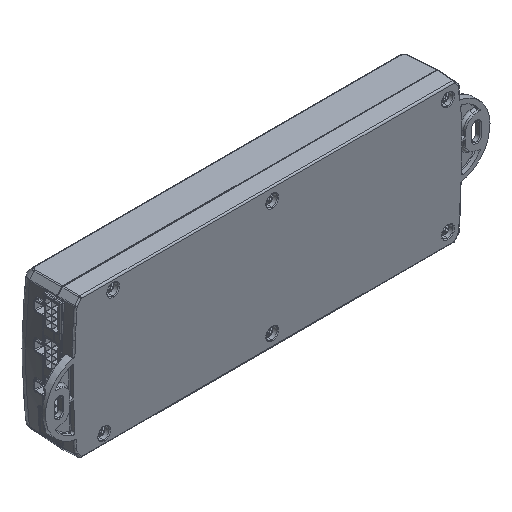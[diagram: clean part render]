
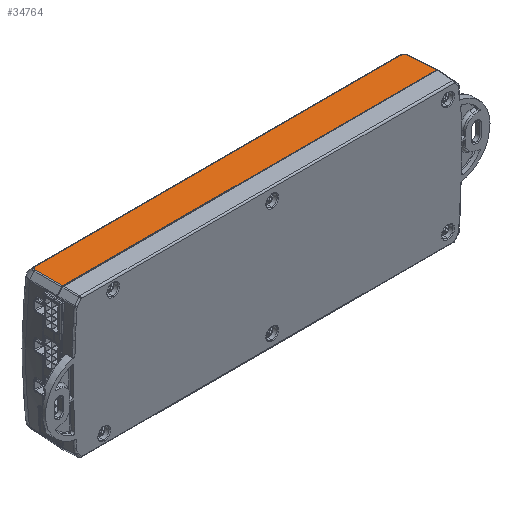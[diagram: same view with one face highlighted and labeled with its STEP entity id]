
A CAD part, isometric view. The second image highlights one B-rep face of the part: STEP entity #34764.
In plain terms, the highlighted planar face has unit normal (0, 0.035, 0.999).
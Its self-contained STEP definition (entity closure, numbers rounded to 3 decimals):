
#474 = B_SPLINE_CURVE_WITH_KNOTS ( 'NONE', 3,
 ( #19145, #22659, #1829, #26220, #5304, #29711, #8830, #33203, #12333, #36712, #15791, #40216, #19289, #43724, #22814, #1978 ),
 .UNSPECIFIED., .F., .F.,
 ( 4, 2, 2, 2, 2, 2, 2, 4 ),
 ( 0., 0., 0.001, 0.002, 0.002, 0.002, 0.003, 0.003 ),
 .UNSPECIFIED. ) ;
#646 = CARTESIAN_POINT ( 'NONE',  ( -121.877, 21.117, 46.263 ) ) ;
#804 = CARTESIAN_POINT ( 'NONE',  ( -122.287, 21.053, 46.265 ) ) ;
#1101 = VERTEX_POINT ( 'NONE', #5629 ) ;
#1829 = CARTESIAN_POINT ( 'NONE',  ( 123.884, 19.292, 46.326 ) ) ;
#1978 = CARTESIAN_POINT ( 'NONE',  ( 121.743, 21.115, 46.263 ) ) ;
#1997 = CARTESIAN_POINT ( 'NONE',  ( 124.24, 8.585, 46.7 ) ) ;
#2514 = CARTESIAN_POINT ( 'NONE',  ( -123.903, 19.022, 46.336 ) ) ;
#2657 = CARTESIAN_POINT ( 'NONE',  ( -124.353, 5.109, 46.822 ) ) ;
#2662 = CARTESIAN_POINT ( 'NONE',  ( -124.516, 0.15, 46.997 ) ) ;
#3130 = ORIENTED_EDGE ( 'NONE', *, *, #32768, .T. ) ;
#4280 = CARTESIAN_POINT ( 'NONE',  ( -122.811, 20.858, 46.272 ) ) ;
#5304 = CARTESIAN_POINT ( 'NONE',  ( 123.78, 19.696, 46.312 ) ) ;
#5324 = CARTESIAN_POINT ( 'NONE',  ( 124.516, 0.15, 46.997 ) ) ;
#5473 = CARTESIAN_POINT ( 'NONE',  ( 124.128, 12.062, 46.579 ) ) ;
#5629 = CARTESIAN_POINT ( 'NONE',  ( -121.736, 21.115, 46.263 ) ) ;
#6157 = CARTESIAN_POINT ( 'NONE',  ( -124.444, 2.297, 46.92 ) ) ;
#6872 = B_SPLINE_CURVE_WITH_KNOTS ( 'NONE', 3,
 ( #5324, #29728, #40236, #19312, #43741, #22836, #1997, #26394, #5473, #29872, #8996, #33376, #12518 ),
 .UNSPECIFIED., .F., .F.,
 ( 4, 3, 3, 3, 4 ),
 ( 0., 0.003, 0.009, 0.014, 0.019 ),
 .UNSPECIFIED. ) ;
#7102 = EDGE_LOOP ( 'NONE', ( #14395, #7980, #11518, #42812, #39380, #3130 ) ) ;
#7467 = EDGE_CURVE ( 'NONE', #42406, #34542, #31224, .T. ) ;
#7656 = B_SPLINE_CURVE_WITH_KNOTS ( 'NONE', 3,
 ( #38891, #646, #21615, #804, #25168, #4280, #28671, #7793, #32175, #11298, #35677, #14772, #39181, #18252, #42678, #21766 ),
 .UNSPECIFIED., .F., .F.,
 ( 4, 2, 2, 2, 2, 2, 2, 4 ),
 ( 0., 0., 0.001, 0.002, 0.002, 0.002, 0.003, 0.003 ),
 .UNSPECIFIED. ) ;
#7793 = CARTESIAN_POINT ( 'NONE',  ( -123.348, 20.416, 46.287 ) ) ;
#7980 = ORIENTED_EDGE ( 'NONE', *, *, #40233, .T. ) ;
#8276 = DIRECTION ( 'NONE',  ( 0., -0.999, 0.035 ) ) ;
#8830 = CARTESIAN_POINT ( 'NONE',  ( 123.452, 20.314, 46.291 ) ) ;
#8996 = CARTESIAN_POINT ( 'NONE',  ( 124.016, 15.538, 46.457 ) ) ;
#9299 = CARTESIAN_POINT ( 'NONE',  ( -123.903, 19.022, 46.336 ) ) ;
#9453 = LINE ( 'NONE', #19568, #10571 ) ;
#9497 = CARTESIAN_POINT ( 'NONE',  ( -123.903, 19.017, 46.336 ) ) ;
#9648 = CARTESIAN_POINT ( 'NONE',  ( -124.516, 0.15, 46.997 ) ) ;
#10571 = VECTOR ( 'NONE', #44015, 1000. ) ;
#10730 = EDGE_CURVE ( 'NONE', #24288, #41117, #474, .T. ) ;
#11298 = CARTESIAN_POINT ( 'NONE',  ( -123.597, 20.079, 46.299 ) ) ;
#11518 = ORIENTED_EDGE ( 'NONE', *, *, #10730, .T. ) ;
#12333 = CARTESIAN_POINT ( 'NONE',  ( 123.043, 20.692, 46.277 ) ) ;
#12518 = CARTESIAN_POINT ( 'NONE',  ( 123.903, 19.015, 46.336 ) ) ;
#13015 = B_SPLINE_CURVE_WITH_KNOTS ( 'NONE', 3,
 ( #2514, #40759, #9497, #33899, #13030, #37407, #16491, #40901, #19991, #44406, #23500, #2657, #27050, #6157, #30537, #9648 ),
 .UNSPECIFIED., .F., .F.,
 ( 4, 3, 3, 3, 3, 4 ),
 ( 0., 0., 0.005, 0.01, 0.016, 0.019 ),
 .UNSPECIFIED. ) ;
#13030 = CARTESIAN_POINT ( 'NONE',  ( -123.959, 17.276, 46.397 ) ) ;
#14395 = ORIENTED_EDGE ( 'NONE', *, *, #7467, .F. ) ;
#14772 = CARTESIAN_POINT ( 'NONE',  ( -123.777, 19.703, 46.312 ) ) ;
#14944 = FACE_OUTER_BOUND ( 'NONE', #7102, .T. ) ;
#15791 = CARTESIAN_POINT ( 'NONE',  ( 122.687, 20.906, 46.27 ) ) ;
#16491 = CARTESIAN_POINT ( 'NONE',  ( -124.072, 13.8, 46.518 ) ) ;
#17321 = CARTESIAN_POINT ( 'NONE',  ( 130.1, 0.15, 46.995 ) ) ;
#18252 = CARTESIAN_POINT ( 'NONE',  ( -123.882, 19.3, 46.326 ) ) ;
#18528 = VERTEX_POINT ( 'NONE', #9299 ) ;
#19145 = CARTESIAN_POINT ( 'NONE',  ( 123.903, 19.015, 46.336 ) ) ;
#19289 = CARTESIAN_POINT ( 'NONE',  ( 122.294, 21.05, 46.265 ) ) ;
#19312 = CARTESIAN_POINT ( 'NONE',  ( 124.409, 3.37, 46.882 ) ) ;
#19568 = CARTESIAN_POINT ( 'NONE',  ( -121.736, 21.115, 46.263 ) ) ;
#19705 = CARTESIAN_POINT ( 'NONE',  ( 121.743, 21.115, 46.263 ) ) ;
#19991 = CARTESIAN_POINT ( 'NONE',  ( -124.184, 10.323, 46.639 ) ) ;
#20843 = DIRECTION ( 'NONE',  ( -1., 0., 0. ) ) ;
#21615 = CARTESIAN_POINT ( 'NONE',  ( -122.015, 21.104, 46.263 ) ) ;
#21631 = EDGE_CURVE ( 'NONE', #1101, #18528, #7656, .T. ) ;
#21766 = CARTESIAN_POINT ( 'NONE',  ( -123.903, 19.022, 46.336 ) ) ;
#22659 = CARTESIAN_POINT ( 'NONE',  ( 123.9, 19.155, 46.331 ) ) ;
#22746 = CARTESIAN_POINT ( 'NONE',  ( 124.516, 0.15, 46.997 ) ) ;
#22814 = CARTESIAN_POINT ( 'NONE',  ( 121.884, 21.117, 46.263 ) ) ;
#22836 = CARTESIAN_POINT ( 'NONE',  ( 124.297, 6.847, 46.761 ) ) ;
#23500 = CARTESIAN_POINT ( 'NONE',  ( -124.297, 6.847, 46.761 ) ) ;
#24288 = VERTEX_POINT ( 'NONE', #42972 ) ;
#25168 = CARTESIAN_POINT ( 'NONE',  ( -122.422, 21.013, 46.266 ) ) ;
#25660 = PLANE ( 'NONE',  #31639 ) ;
#26220 = CARTESIAN_POINT ( 'NONE',  ( 123.824, 19.562, 46.317 ) ) ;
#26394 = CARTESIAN_POINT ( 'NONE',  ( 124.184, 10.323, 46.639 ) ) ;
#27050 = CARTESIAN_POINT ( 'NONE',  ( -124.409, 3.37, 46.882 ) ) ;
#28671 = CARTESIAN_POINT ( 'NONE',  ( -123.049, 20.704, 46.277 ) ) ;
#29152 = DIRECTION ( 'NONE',  ( 0., 0.035, 0.999 ) ) ;
#29711 = CARTESIAN_POINT ( 'NONE',  ( 123.612, 20.08, 46.299 ) ) ;
#29728 = CARTESIAN_POINT ( 'NONE',  ( 124.478, 1.223, 46.957 ) ) ;
#29872 = CARTESIAN_POINT ( 'NONE',  ( 124.072, 13.8, 46.518 ) ) ;
#30537 = CARTESIAN_POINT ( 'NONE',  ( -124.478, 1.223, 46.957 ) ) ;
#31224 = LINE ( 'NONE', #17321, #39388 ) ;
#31639 = AXIS2_PLACEMENT_3D ( 'NONE', #32357, #29152, #8276 ) ;
#32175 = CARTESIAN_POINT ( 'NONE',  ( -123.439, 20.307, 46.291 ) ) ;
#32357 = CARTESIAN_POINT ( 'NONE',  ( -128., 0., 47. ) ) ;
#32768 = EDGE_CURVE ( 'NONE', #18528, #34542, #13015, .T. ) ;
#33203 = CARTESIAN_POINT ( 'NONE',  ( 123.154, 20.604, 46.28 ) ) ;
#33376 = CARTESIAN_POINT ( 'NONE',  ( 123.959, 17.276, 46.397 ) ) ;
#33899 = CARTESIAN_POINT ( 'NONE',  ( -123.903, 19.015, 46.336 ) ) ;
#34542 = VERTEX_POINT ( 'NONE', #2662 ) ;
#34764 = ADVANCED_FACE ( 'NONE', ( #14944 ), #25660, .T. ) ;
#35677 = CARTESIAN_POINT ( 'NONE',  ( -123.665, 19.958, 46.303 ) ) ;
#36488 = EDGE_CURVE ( 'NONE', #41117, #1101, #9453, .T. ) ;
#36712 = CARTESIAN_POINT ( 'NONE',  ( 122.81, 20.842, 46.272 ) ) ;
#37407 = CARTESIAN_POINT ( 'NONE',  ( -124.016, 15.538, 46.457 ) ) ;
#38891 = CARTESIAN_POINT ( 'NONE',  ( -121.736, 21.115, 46.263 ) ) ;
#39181 = CARTESIAN_POINT ( 'NONE',  ( -123.821, 19.57, 46.317 ) ) ;
#39380 = ORIENTED_EDGE ( 'NONE', *, *, #21631, .T. ) ;
#39388 = VECTOR ( 'NONE', #20843, 1000. ) ;
#40216 = CARTESIAN_POINT ( 'NONE',  ( 122.429, 21.01, 46.266 ) ) ;
#40233 = EDGE_CURVE ( 'NONE', #42406, #24288, #6872, .T. ) ;
#40236 = CARTESIAN_POINT ( 'NONE',  ( 124.444, 2.297, 46.92 ) ) ;
#40759 = CARTESIAN_POINT ( 'NONE',  ( -123.903, 19.02, 46.336 ) ) ;
#40901 = CARTESIAN_POINT ( 'NONE',  ( -124.128, 12.062, 46.579 ) ) ;
#41117 = VERTEX_POINT ( 'NONE', #19705 ) ;
#42406 = VERTEX_POINT ( 'NONE', #22746 ) ;
#42678 = CARTESIAN_POINT ( 'NONE',  ( -123.9, 19.162, 46.331 ) ) ;
#42812 = ORIENTED_EDGE ( 'NONE', *, *, #36488, .T. ) ;
#42972 = CARTESIAN_POINT ( 'NONE',  ( 123.903, 19.015, 46.336 ) ) ;
#43724 = CARTESIAN_POINT ( 'NONE',  ( 122.022, 21.103, 46.263 ) ) ;
#43741 = CARTESIAN_POINT ( 'NONE',  ( 124.353, 5.109, 46.822 ) ) ;
#44015 = DIRECTION ( 'NONE',  ( -1., 0., 0. ) ) ;
#44406 = CARTESIAN_POINT ( 'NONE',  ( -124.24, 8.585, 46.7 ) ) ;
